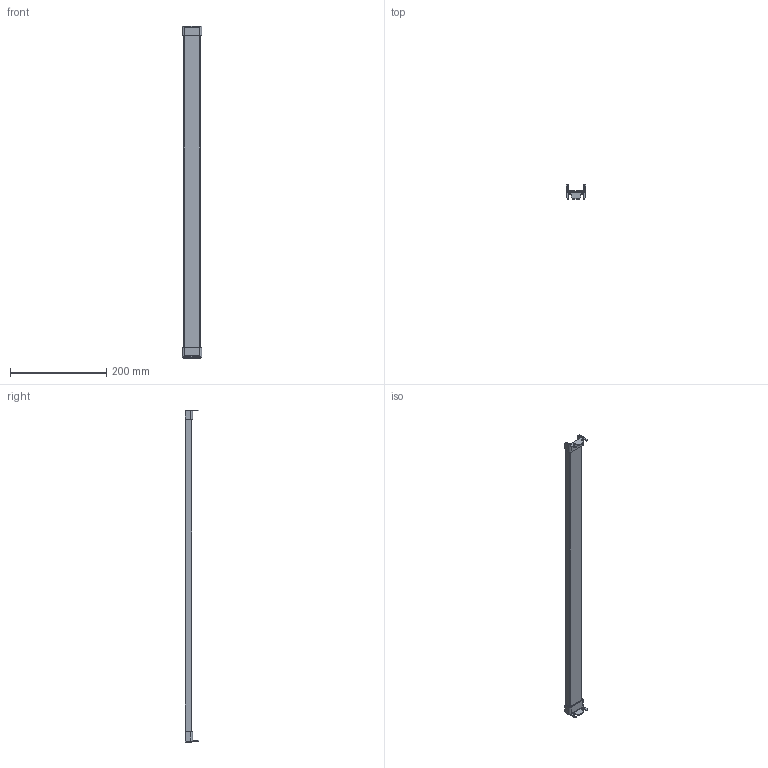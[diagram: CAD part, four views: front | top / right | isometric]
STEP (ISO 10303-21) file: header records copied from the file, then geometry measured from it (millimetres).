
FILE_DESCRIPTION (( 'STEP AP203' ), '1' );
FILE_NAME ('GB 80 ÑÁ Ïëàíêà ðàçäåëèòåëüíàÿ.STEP', '2012-11-21T06:55:56', ( 'system' ), ( '' ), 'SwSTEP 2.0', 'SolidWorks 2012', '' );
FILE_SCHEMA (( 'CONFIG_CONTROL_DESIGN' ));
Length unit declared in the file: millimetre
Products named in the file (1): GB 80 ÑÁ Ïëàíêà ðàçäåëèòåëüíàÿ
Bounding box: 40 x 28.34 x 688.5 mm (x, y, z)
Volume: 62794.3 mm3; surface area: 84777.3 mm2
Topology: 1 solids, 1 shells, 92 faces, 266 edges, 176 vertices
Faces by surface type: plane 70, cylinder 22
Entity records: 3079 total; most frequent: CARTESIAN_POINT 535, ORIENTED_EDGE 532, DIRECTION 496, EDGE_CURVE 266, LINE 222, VECTOR 222, VERTEX_POINT 176, AXIS2_PLACEMENT_3D 137
